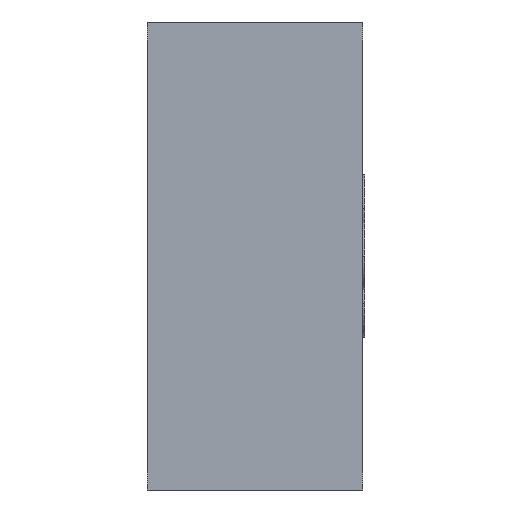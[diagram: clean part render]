
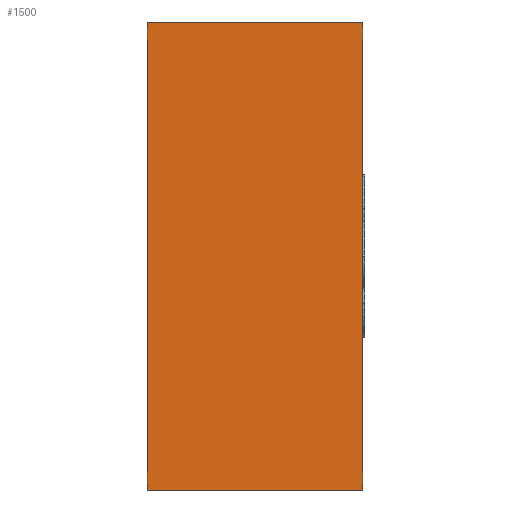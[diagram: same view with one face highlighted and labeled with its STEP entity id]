
A CAD part, left-side view. The second image highlights one B-rep face of the part: STEP entity #1500.
In plain terms, the highlighted planar face has unit normal (-1, 0, 0).
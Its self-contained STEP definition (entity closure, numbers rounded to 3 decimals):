
#52=DIRECTION('',(0.,-1.,0.));
#53=VECTOR('',#52,35.);
#54=CARTESIAN_POINT('',(-17.5,17.5,0.));
#55=LINE('',#54,#53);
#96=DIRECTION('',(0.,0.,1.));
#97=VECTOR('',#96,76.);
#98=CARTESIAN_POINT('',(-17.5,17.5,0.));
#99=LINE('',#98,#97);
#245=DIRECTION('',(0.,0.,1.));
#246=VECTOR('',#245,76.);
#247=CARTESIAN_POINT('',(-17.5,-17.5,0.));
#248=LINE('',#247,#246);
#380=DIRECTION('',(0.,-1.,0.));
#381=VECTOR('',#380,35.);
#382=CARTESIAN_POINT('',(-17.5,17.5,76.));
#383=LINE('',#382,#381);
#1280=CARTESIAN_POINT('',(-17.5,17.5,0.));
#1281=CARTESIAN_POINT('',(-17.5,-17.5,0.));
#1282=VERTEX_POINT('',#1280);
#1283=VERTEX_POINT('',#1281);
#1288=CARTESIAN_POINT('',(-17.5,17.5,76.));
#1289=CARTESIAN_POINT('',(-17.5,-17.5,76.));
#1290=VERTEX_POINT('',#1288);
#1291=VERTEX_POINT('',#1289);
#1486=CARTESIAN_POINT('',(-17.5,17.5,0.));
#1487=DIRECTION('',(-1.,0.,0.));
#1488=DIRECTION('',(0.,-1.,0.));
#1489=AXIS2_PLACEMENT_3D('',#1486,#1487,#1488);
#1490=PLANE('',#1489);
#1491=ORIENTED_EDGE('',*,*,#1457,.F.);
#1493=ORIENTED_EDGE('',*,*,#1492,.T.);
#1495=ORIENTED_EDGE('',*,*,#1494,.T.);
#1497=ORIENTED_EDGE('',*,*,#1496,.F.);
#1498=EDGE_LOOP('',(#1491,#1493,#1495,#1497));
#1499=FACE_OUTER_BOUND('',#1498,.F.);
#1457=EDGE_CURVE('',#1282,#1283,#55,.T.);
#1492=EDGE_CURVE('',#1282,#1290,#99,.T.);
#1494=EDGE_CURVE('',#1290,#1291,#383,.T.);
#1496=EDGE_CURVE('',#1283,#1291,#248,.T.);
#1500=ADVANCED_FACE('',(#1499),#1490,.T.);
